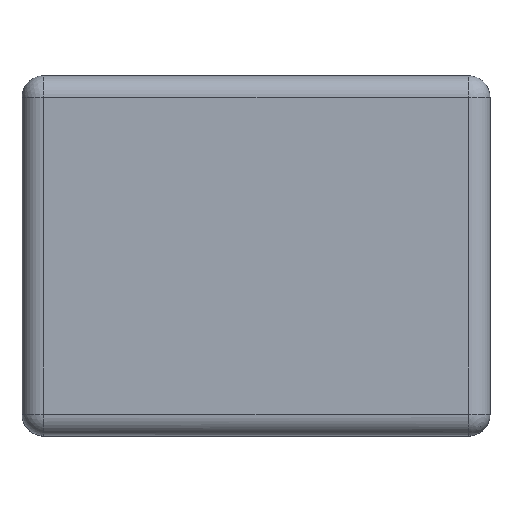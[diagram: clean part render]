
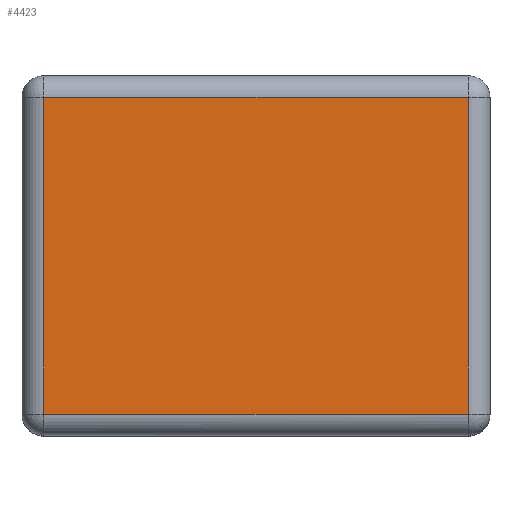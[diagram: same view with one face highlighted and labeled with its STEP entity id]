
A CAD part, top view. The second image highlights one B-rep face of the part: STEP entity #4423.
In plain terms, the highlighted planar face has unit normal (0, 0, 1) as drawn and (0, 0, -1) by its records, which use the part's own axes.
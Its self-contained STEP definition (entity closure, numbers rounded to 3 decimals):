
#683=FACE_OUTER_BOUND('',#986,.T.);
#986=EDGE_LOOP('',(#3803,#3804,#3805,#3806));
#1390=LINE('',#7499,#1792);
#1392=LINE('',#7506,#1794);
#1393=LINE('',#7514,#1795);
#1395=LINE('',#7522,#1797);
#1792=VECTOR('',#6133,59.);
#1794=VECTOR('',#6141,44.);
#1795=VECTOR('',#6152,59.);
#1797=VECTOR('',#6164,44.);
#2144=VERTEX_POINT('',#7496);
#2145=VERTEX_POINT('',#7498);
#2147=VERTEX_POINT('',#7505);
#2149=VERTEX_POINT('',#7513);
#2700=EDGE_CURVE('',#2144,#2145,#1390,.T.);
#2704=EDGE_CURVE('',#2145,#2147,#1392,.T.);
#2708=EDGE_CURVE('',#2147,#2149,#1393,.T.);
#2713=EDGE_CURVE('',#2149,#2144,#1395,.T.);
#3803=ORIENTED_EDGE('',*,*,#2700,.F.);
#3804=ORIENTED_EDGE('',*,*,#2713,.F.);
#3805=ORIENTED_EDGE('',*,*,#2708,.F.);
#3806=ORIENTED_EDGE('',*,*,#2704,.F.);
#4154=PLANE('',#4931);
#4423=ADVANCED_FACE('',(#683),#4154,.F.);
#4931=AXIS2_PLACEMENT_3D('',#7535,#6185,#6186);
#6133=DIRECTION('',(1.,0.,0.));
#6141=DIRECTION('',(0.,1.,0.));
#6152=DIRECTION('',(-1.,0.,0.));
#6164=DIRECTION('',(0.,-1.,0.));
#6185=DIRECTION('center_axis',(0.,0.,1.));
#6186=DIRECTION('ref_axis',(1.,0.,0.));
#7496=CARTESIAN_POINT('',(-29.5,-22.,-33.));
#7498=CARTESIAN_POINT('',(29.5,-22.,-33.));
#7499=CARTESIAN_POINT('',(-29.5,-22.,-33.));
#7505=CARTESIAN_POINT('',(29.5,22.,-33.));
#7506=CARTESIAN_POINT('',(29.5,-22.,-33.));
#7513=CARTESIAN_POINT('',(-29.5,22.,-33.));
#7514=CARTESIAN_POINT('',(29.5,22.,-33.));
#7522=CARTESIAN_POINT('',(-29.5,22.,-33.));
#7535=CARTESIAN_POINT('Origin',(0.,0.,-33.));
